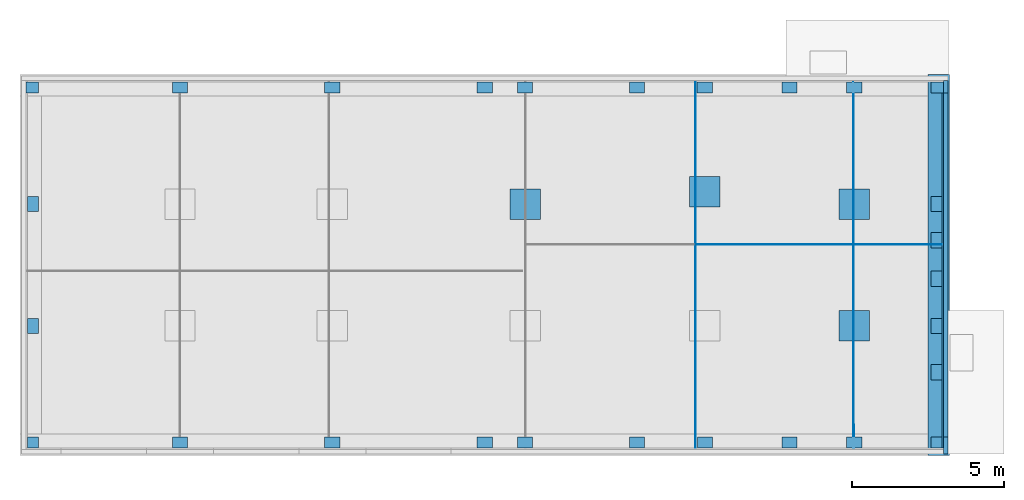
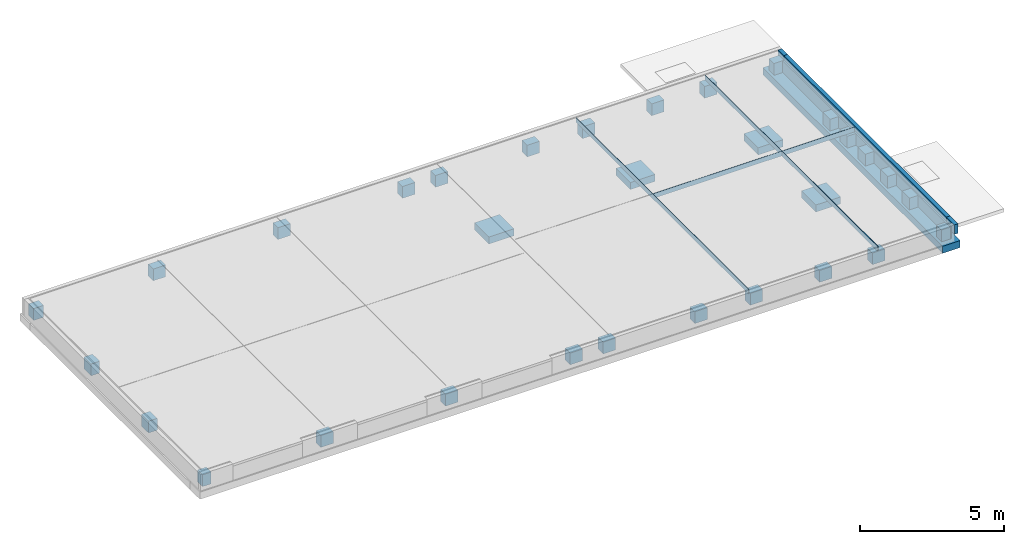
# One storey, part 2 of 3: 39 walls.
"""IFC2X3 building model written with IfcOpenShell, lengths in millimetres."""

from ifc_helpers import new_model, entity, si_unit, converted_unit, frame, frame_2d, origin, origin_with_axes, place, context, subcontext, project, spatial, polyline, rectangle, outline, extrude, clip, bounded_halfspace, material, layer, layer_set, layer_usage, element, save


model = new_model("IFC2X3")

# Units and contexts
model_context = context("Model", 3, precision=1e-05, world=origin())
plan_context = context("Plan", 3, precision=1e-05, world=origin())
body_context = subcontext(model_context, "Body", "Model", "MODEL_VIEW")
ifc_project = project(units=[si_unit("LENGTHUNIT", "METRE", prefix="MILLI"), converted_unit("PLANEANGLEUNIT", "DEGREE", entity("IfcPlaneAngleMeasure", 0.0174532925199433), si_unit("PLANEANGLEUNIT", "RADIAN"), dimensions=[0, 0, 0, 0, 0, 0, 0]), si_unit("AREAUNIT", "SQUARE_METRE"), si_unit("VOLUMEUNIT", "CUBIC_METRE")], contexts=[model_context, plan_context])

# Building, storey
building_placement = place(None, origin())
building = spatial("IfcBuilding", under=ifc_project, at=building_placement, Name="HEKF Administrasjonbygg", CompositionType="ELEMENT")
storey_placement = place(building_placement, frame((0.0, 0.0, 6300.0), z_axis=(0.0, 0.0, 1.0), x_axis=(1.0, 0.0, 0.0)))
storey = spatial("IfcBuildingStorey", under=building, at=storey_placement, Name="Konstruksjoner i grunnen", CompositionType="ELEMENT", Elevation=6300.0)

# Walls
ifc_material_1 = material(Name="Rissanviser")
ifc_layer_1 = layer(ifc_material_1, 33.08250141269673)
ifc_layer_set_1 = layer_set([ifc_layer_1])
ifc_layer_usage_1 = layer_usage(ifc_layer_set_1, "AXIS2", "POSITIVE", -7.5)
wall_1_placement = place(storey_placement, frame((27085.85138322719, 0.0, 0.0), z_axis=(0.0, 0.0, 1.0), x_axis=(0.0, -1.0, 0.0)))
element("IfcWallStandardCase", 1, at=wall_1_placement, inside=storey, material=ifc_layer_usage_1, context=body_context, shape_type="SweptSolid", body=[
    extrude(outline(polyline([(0.0, 0.0), (5308.999999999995, 8.0), (5332.0, 7.984855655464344), (9550.0, 0.0), (12000.0, 0.0), (12000.0, 33.08250141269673), (0.0, 15.0), (0.0, 0.0)])), origin_with_axes(), (0.0, 0.0, 1.0), 200.0),
])
ifc_material_2 = material(Name="Rissanviser")
ifc_layer_2 = layer(ifc_material_2, 14.9999984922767)
ifc_layer_set_2 = layer_set([ifc_layer_2])
ifc_layer_usage_2 = layer_usage(ifc_layer_set_2, "AXIS2", "POSITIVE", -7.5)
wall_2_placement = place(storey_placement, frame((21909.92637380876, -5308.999999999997, 0.0), z_axis=(0.0, 0.0, 1.0), x_axis=(0.0004483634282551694, -0.9999998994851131, 0.0)))
element("IfcWallStandardCase", 2, at=wall_2_placement, inside=storey, material=ifc_layer_usage_2, context=body_context, shape_type="SweptSolid", body=[
    extrude(outline(polyline([(22.99999930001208, -0.006717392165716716), (6691.00067254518, 4.440892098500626e-16), (6691.007397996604, 14.9999984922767), (15.00672394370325, 14.99327304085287), (0.00672545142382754, 14.9999984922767), (-5308.991395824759, 20.38035963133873), (-5308.998121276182, 5.380361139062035), (0.0, 0.0), (22.99999930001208, -0.006717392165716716)])), origin_with_axes(), (0.0, 0.0, 1.0), 200.0),
])
ifc_material_3 = material(Name="Rissanviser")
ifc_layer_3 = layer(ifc_material_3, 15.00000000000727)
ifc_layer_set_3 = layer_set([ifc_layer_3])
ifc_layer_usage_3 = layer_usage(ifc_layer_set_3, "AXIS2", "POSITIVE", -7.5)
wall_3_placement = place(storey_placement, frame((16413.0, -5332.0, 0.0), z_axis=(0.0, 0.0, 1.0), x_axis=(0.9999999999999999, 0.0, 0.0)))
element("IfcWallStandardCase", 3, at=wall_3_placement, inside=storey, material=ifc_layer_usage_3, context=body_context, shape_type="SweptSolid", body=[
    extrude(outline(polyline([(10680.84611562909, 15.00000000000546), (5511.92637380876, 15.00000000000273), (5511.929968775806, 0.0), (10680.83623888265, 0.0), (10680.84611562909, 15.00000000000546)])), origin_with_axes(), (0.0, 0.0, 1.0), 200.0),
])
ifc_material_4 = material(Name="Rissanviser")
ifc_layer_4 = layer(ifc_material_4, 15.00000000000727)
ifc_layer_set_4 = layer_set([ifc_layer_4])
ifc_layer_usage_4 = layer_usage(ifc_layer_set_4, "AXIS2", "POSITIVE", -7.5)
wall_4_placement = place(storey_placement, frame((16413.0, -5332.0, 0.0), z_axis=(0.0, 0.0, 1.0), x_axis=(0.9999999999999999, 0.0, 0.0)))
element("IfcWallStandardCase", 4, at=wall_4_placement, inside=storey, material=ifc_layer_usage_4, context=body_context, shape_type="SweptSolid", body=[
    extrude(outline(polyline([(10695.88604135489, 0.0), (13587.0, 0.0), (13587.0, 15.00000000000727), (10695.86343822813, 15.00000000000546), (10695.88604135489, 0.0)])), origin_with_axes(), (0.0, 0.0, 1.0), 200.0),
])
ifc_material_5 = material(Name="Betong")
ifc_layer_5 = layer(ifc_material_5, 700.0)
ifc_layer_set_5 = layer_set([ifc_layer_5])
ifc_layer_usage_5 = layer_usage(ifc_layer_set_5, "AXIS2", "POSITIVE", -350.0000000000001)
wall_5_placement = place(storey_placement, frame((29549.99999999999, 250.0, -800.0), z_axis=(0.0, 0.0, 1.0), x_axis=(0.0, -1.0, 0.0)))
element("IfcWallStandardCase", 5, at=wall_5_placement, inside=storey, material=ifc_layer_usage_5, context=body_context, shape_type="SweptSolid", body=[
    extrude(rectangle(XDim=12500.0, YDim=700.0, at=frame_2d((6250.0, 350.0), x_axis=(1.0, 0.0))), origin_with_axes(), (0.0, 0.0, 1.0), 300.0),
])
ifc_material_6 = material(Name="Betong")
ifc_layer_6 = layer(ifc_material_6, 1000.0)
ifc_layer_set_6 = layer_set([ifc_layer_6])
ifc_layer_usage_6 = layer_usage(ifc_layer_set_6, "AXIS2", "POSITIVE", 0.0)
wall_6_placement = place(storey_placement, frame((15825.0, -3500.0, -300.0), z_axis=(0.0, 0.0, 1.0), x_axis=(0.0, -1.0, 0.0)))
element("IfcWallStandardCase", 6, at=wall_6_placement, inside=storey, material=ifc_layer_usage_6, context=body_context, shape_type="SweptSolid", body=[
    extrude(rectangle(XDim=1000.0, YDim=1000.0, at=frame_2d((500.0, 500.0), x_axis=(1.0, 0.0))), origin_with_axes(), (0.0, 0.0, 1.0), 300.0),
])
ifc_material_7 = material(Name="Betong")
ifc_layer_7 = layer(ifc_material_7, 1000.0)
ifc_layer_set_7 = layer_set([ifc_layer_7])
ifc_layer_usage_7 = layer_usage(ifc_layer_set_7, "AXIS2", "POSITIVE", 0.0)
wall_7_placement = place(storey_placement, frame((21725.26840322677, -3098.999999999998, -300.0), z_axis=(0.0, 0.0, 1.0), x_axis=(0.0, -1.0, 0.0)))
element("IfcWallStandardCase", 7, at=wall_7_placement, inside=storey, material=ifc_layer_usage_7, context=body_context, shape_type="SweptSolid", body=[
    extrude(rectangle(XDim=1000.0, YDim=1000.0, at=frame_2d((500.0, 500.0), x_axis=(1.0, 0.0))), origin_with_axes(), (0.0, 0.0, 1.0), 300.0),
])
ifc_material_8 = material(Name="Betong")
ifc_layer_8 = layer(ifc_material_8, 1000.0)
ifc_layer_set_8 = layer_set([ifc_layer_8])
ifc_layer_usage_8 = layer_usage(ifc_layer_set_8, "AXIS2", "POSITIVE", 0.0)
wall_8_placement = place(storey_placement, frame((26625.53680645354, -7499.999999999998, -300.0), z_axis=(0.0, 0.0, 1.0), x_axis=(0.0, -1.0, 0.0)))
element("IfcWallStandardCase", 8, at=wall_8_placement, inside=storey, material=ifc_layer_usage_8, context=body_context, shape_type="SweptSolid", body=[
    extrude(rectangle(XDim=1000.0, YDim=1000.0, at=frame_2d((500.0, 500.0), x_axis=(1.0, 0.0))), origin_with_axes(), (0.0, 0.0, 1.0), 300.0),
])
ifc_material_9 = material(Name="Betong")
ifc_layer_9 = layer(ifc_material_9, 1000.0)
ifc_layer_set_9 = layer_set([ifc_layer_9])
ifc_layer_usage_9 = layer_usage(ifc_layer_set_9, "AXIS2", "POSITIVE", 0.0)
wall_9_placement = place(storey_placement, frame((26625.53680645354, -3499.999999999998, -300.0), z_axis=(0.0, 0.0, 1.0), x_axis=(0.0, -1.0, 0.0)))
element("IfcWallStandardCase", 9, at=wall_9_placement, inside=storey, material=ifc_layer_usage_9, context=body_context, shape_type="SweptSolid", body=[
    extrude(rectangle(XDim=1000.0, YDim=1000.0, at=frame_2d((500.0, 500.0), x_axis=(1.0, 0.0))), origin_with_axes(), (0.0, 0.0, 1.0), 300.0),
])
ifc_material_10 = material(Name="Betong")
ifc_layer_10 = layer(ifc_material_10, 150.0)
ifc_layer_set_10 = layer_set([ifc_layer_10])
ifc_layer_usage_10 = layer_usage(ifc_layer_set_10, "AXIS2", "POSITIVE", 0.0)
wall_10_placement = place(storey_placement, frame((30199.99999999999, -12200.0, -200.0), z_axis=(0.0, 0.0, 1.0), x_axis=(0.0, 1.0, 0.0)))
element("IfcWallStandardCase", 10, at=wall_10_placement, inside=storey, material=ifc_layer_usage_10, context=body_context, shape_type="SweptSolid", body=[
    extrude(outline(polyline([(0.0, 0.0), (549.9999999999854, 0.0), (549.9999999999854, 150.0), (0.0, 150.0), (0.0, 0.0)])), origin_with_axes(), (0.0, 0.0, 1.0), 400.0),
])
ifc_material_11 = material(Name="Betong")
ifc_layer_11 = layer(ifc_material_11, 150.0)
ifc_layer_set_11 = layer_set([ifc_layer_11])
ifc_layer_usage_11 = layer_usage(ifc_layer_set_11, "AXIS2", "POSITIVE", 0.0)
wall_11_placement = place(storey_placement, frame((30199.99999999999, -12200.0, -200.0), z_axis=(0.0, 0.0, 1.0), x_axis=(0.0, 1.0, 0.0)))
element("IfcWallStandardCase", 11, at=wall_11_placement, inside=storey, material=ifc_layer_usage_11, context=body_context, shape_type="SweptSolid", body=[
    extrude(outline(polyline([(12250.0, 150.0), (11849.99999999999, 150.0), (11849.99999999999, 0.0), (12250.0, 0.0), (12250.0, 150.0)])), origin_with_axes(), (0.0, 0.0, 1.0), 400.0),
])
ifc_material_12 = material(Name="Betong")
ifc_layer_12 = layer(ifc_material_12, 50.0)
ifc_material_13 = material(Name="Betong")
ifc_layer_13 = layer(ifc_material_13, 150.0)
ifc_layer_set_12 = layer_set([ifc_layer_12, ifc_layer_13])
ifc_layer_usage_12 = layer_usage(ifc_layer_set_12, "AXIS2", "POSITIVE", 0.0)
wall_12_placement = place(storey_placement, frame((30000.0, -350.0000000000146, -500.0), z_axis=(0.0, 0.0, 1.0), x_axis=(0.0, -1.0, 0.0)))
element("IfcWallStandardCase", 12, at=wall_12_placement, inside=storey, material=ifc_layer_usage_12, context=body_context, shape_type="Clipping", body=[
    clip(clip(extrude(outline(polyline([(0.0, 0.0), (11650.0, 0.0), (11650.0, 50.0), (11300.0, 50.0), (11300.0, 200.0), (-5.684341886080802e-14, 200.0), (0.0, 0.0)])), origin_with_axes(), (0.0, 0.0, 1.0), 700.0), bounded_halfspace(frame((0.0, 0.0, 500.0), z_axis=(0.0, 0.0, -1.0), x_axis=(1.0, 0.0, 0.0)), True, origin(), polyline([(0.0, 0.0), (11650.0, 0.0), (11650.0, 50.0), (11300.0, 50.0), (0.0, 50.0), (0.0, 0.0)]))), bounded_halfspace(frame((-5.684341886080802e-14, 50.0, 700.0), z_axis=(0.0, 0.0, -1.0), x_axis=(1.0, 0.0, 0.0)), True, origin(), polyline([(-5.684341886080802e-14, 50.0), (11300.0, 50.0), (11300.0, 200.0), (-5.684341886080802e-14, 200.0), (-5.684341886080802e-14, 50.0)]))),
])
ifc_material_14 = material(Name="Betong")
ifc_layer_14 = layer(ifc_material_14, 350.0)
ifc_layer_set_13 = layer_set([ifc_layer_14])
ifc_layer_usage_13 = layer_usage(ifc_layer_set_13, "AXIS2", "POSITIVE", 0.0)
wall_13_placement = place(storey_placement, frame((25250.0, -11650.00000000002, -500.0), z_axis=(0.0, 0.0, 1.0), x_axis=(-1.0, 0.0, 0.0)))
element("IfcWallStandardCase", 13, at=wall_13_placement, inside=storey, material=ifc_layer_usage_13, context=body_context, shape_type="SweptSolid", body=[
    extrude(rectangle(XDim=500.0, YDim=350.0, at=frame_2d((250.0, 175.0), x_axis=(1.0, 0.0))), origin_with_axes(), (0.0, 0.0, 1.0), 500.0),
])
ifc_material_15 = material(Name="Betong")
ifc_layer_15 = layer(ifc_material_15, 350.0)
ifc_layer_set_14 = layer_set([ifc_layer_15])
ifc_layer_usage_14 = layer_usage(ifc_layer_set_14, "AXIS2", "POSITIVE", 0.0)
wall_14_placement = place(storey_placement, frame((5250.000000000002, -11650.00000000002, -500.0), z_axis=(0.0, 0.0, 1.0), x_axis=(-1.0, 0.0, 0.0)))
element("IfcWallStandardCase", 14, at=wall_14_placement, inside=storey, material=ifc_layer_usage_14, context=body_context, shape_type="SweptSolid", body=[
    extrude(rectangle(XDim=500.0, YDim=350.0, at=frame_2d((250.0, 175.0), x_axis=(1.0, 0.0))), origin_with_axes(), (0.0, 0.0, 1.0), 500.0),
])
ifc_material_16 = material(Name="Betong")
ifc_layer_16 = layer(ifc_material_16, 350.0)
ifc_layer_set_15 = layer_set([ifc_layer_16])
ifc_layer_usage_15 = layer_usage(ifc_layer_set_15, "AXIS2", "POSITIVE", 0.0)
wall_15_placement = place(storey_placement, frame((15250.0, -11650.00000000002, -500.0), z_axis=(0.0, 0.0, 1.0), x_axis=(-1.0, 0.0, 0.0)))
element("IfcWallStandardCase", 15, at=wall_15_placement, inside=storey, material=ifc_layer_usage_15, context=body_context, shape_type="SweptSolid", body=[
    extrude(rectangle(XDim=500.0, YDim=350.0, at=frame_2d((250.0, 175.0), x_axis=(1.0, 0.0))), origin_with_axes(), (0.0, 0.0, 1.0), 500.0),
])
ifc_material_17 = material(Name="Betong")
ifc_layer_17 = layer(ifc_material_17, 350.0)
ifc_layer_set_16 = layer_set([ifc_layer_17])
ifc_layer_usage_16 = layer_usage(ifc_layer_set_16, "AXIS2", "POSITIVE", 0.0)
wall_16_placement = place(storey_placement, frame((20250.0, -11650.00000000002, -500.0), z_axis=(0.0, 0.0, 1.0), x_axis=(-1.0, 0.0, 0.0)))
element("IfcWallStandardCase", 16, at=wall_16_placement, inside=storey, material=ifc_layer_usage_16, context=body_context, shape_type="SweptSolid", body=[
    extrude(rectangle(XDim=500.0, YDim=350.0, at=frame_2d((250.0, 175.0), x_axis=(1.0, 0.0))), origin_with_axes(), (0.0, 0.0, 1.0), 500.0),
])
ifc_material_18 = material(Name="Betong")
ifc_layer_18 = layer(ifc_material_18, 350.0)
ifc_layer_set_17 = layer_set([ifc_layer_18])
ifc_layer_usage_17 = layer_usage(ifc_layer_set_17, "AXIS2", "POSITIVE", 0.0)
wall_17_placement = place(storey_placement, frame((10250.0, -11650.00000000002, -500.0), z_axis=(0.0, 0.0, 1.0), x_axis=(-1.0, 0.0, 0.0)))
element("IfcWallStandardCase", 17, at=wall_17_placement, inside=storey, material=ifc_layer_usage_17, context=body_context, shape_type="SweptSolid", body=[
    extrude(rectangle(XDim=500.0, YDim=350.0, at=frame_2d((250.0, 175.0), x_axis=(1.0, 0.0))), origin_with_axes(), (0.0, 0.0, 1.0), 500.0),
])
ifc_material_19 = material(Name="Betong")
ifc_layer_19 = layer(ifc_material_19, 350.0000000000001)
ifc_layer_set_18 = layer_set([ifc_layer_19])
ifc_layer_usage_18 = layer_usage(ifc_layer_set_18, "AXIS2", "POSITIVE", 0.0)
wall_18_placement = place(storey_placement, frame((5250.000000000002, -1.443822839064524e-11, -500.0), z_axis=(0.0, 0.0, 1.0), x_axis=(-1.0, 0.0, 0.0)))
element("IfcWallStandardCase", 18, at=wall_18_placement, inside=storey, material=ifc_layer_usage_18, context=body_context, shape_type="SweptSolid", body=[
    extrude(rectangle(XDim=500.0, YDim=350.0000000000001, at=frame_2d((250.0, 175.0000000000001), x_axis=(1.0, 0.0))), origin_with_axes(), (0.0, 0.0, 1.0), 500.0),
])
ifc_material_20 = material(Name="Betong")
ifc_layer_20 = layer(ifc_material_20, 350.0000000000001)
ifc_layer_set_19 = layer_set([ifc_layer_20])
ifc_layer_usage_19 = layer_usage(ifc_layer_set_19, "AXIS2", "POSITIVE", 0.0)
wall_19_placement = place(storey_placement, frame((10250.0, -1.431921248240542e-11, -500.0), z_axis=(0.0, 0.0, 1.0), x_axis=(-1.0, 0.0, 0.0)))
element("IfcWallStandardCase", 19, at=wall_19_placement, inside=storey, material=ifc_layer_usage_19, context=body_context, shape_type="SweptSolid", body=[
    extrude(rectangle(XDim=500.0, YDim=350.0000000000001, at=frame_2d((250.0, 175.0000000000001), x_axis=(1.0, 0.0))), origin_with_axes(), (0.0, 0.0, 1.0), 500.0),
])
ifc_material_21 = material(Name="Betong")
ifc_layer_21 = layer(ifc_material_21, 350.0000000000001)
ifc_layer_set_20 = layer_set([ifc_layer_21])
ifc_layer_usage_20 = layer_usage(ifc_layer_set_20, "AXIS2", "POSITIVE", 0.0)
wall_20_placement = place(storey_placement, frame((15250.0, -1.41966438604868e-11, -500.0), z_axis=(0.0, 0.0, 1.0), x_axis=(-1.0, 0.0, 0.0)))
element("IfcWallStandardCase", 20, at=wall_20_placement, inside=storey, material=ifc_layer_usage_20, context=body_context, shape_type="SweptSolid", body=[
    extrude(rectangle(XDim=500.0, YDim=350.0000000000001, at=frame_2d((250.0, 175.0000000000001), x_axis=(1.0, 0.0))), origin_with_axes(), (0.0, 0.0, 1.0), 500.0),
])
ifc_material_22 = material(Name="Betong")
ifc_layer_22 = layer(ifc_material_22, 350.0000000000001)
ifc_layer_set_21 = layer_set([ifc_layer_22])
ifc_layer_usage_21 = layer_usage(ifc_layer_set_21, "AXIS2", "POSITIVE", 0.0)
wall_21_placement = place(storey_placement, frame((20250.0, -1.409716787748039e-11, -500.0), z_axis=(0.0, 0.0, 1.0), x_axis=(-1.0, 0.0, 0.0)))
element("IfcWallStandardCase", 21, at=wall_21_placement, inside=storey, material=ifc_layer_usage_21, context=body_context, shape_type="SweptSolid", body=[
    extrude(rectangle(XDim=500.0, YDim=350.0000000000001, at=frame_2d((250.0, 175.0000000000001), x_axis=(1.0, 0.0))), origin_with_axes(), (0.0, 0.0, 1.0), 500.0),
])
ifc_material_23 = material(Name="Betong")
ifc_layer_23 = layer(ifc_material_23, 350.0000000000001)
ifc_layer_set_22 = layer_set([ifc_layer_23])
ifc_layer_usage_22 = layer_usage(ifc_layer_set_22, "AXIS2", "POSITIVE", 0.0)
wall_22_placement = place(storey_placement, frame((25250.0, -1.409716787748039e-11, -500.0), z_axis=(0.0, 0.0, 1.0), x_axis=(-1.0, 0.0, 0.0)))
element("IfcWallStandardCase", 22, at=wall_22_placement, inside=storey, material=ifc_layer_usage_22, context=body_context, shape_type="SweptSolid", body=[
    extrude(rectangle(XDim=500.0, YDim=350.0000000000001, at=frame_2d((250.0, 175.0000000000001), x_axis=(1.0, 0.0))), origin_with_axes(), (0.0, 0.0, 1.0), 500.0),
])
ifc_material_24 = material(Name="Betong")
ifc_layer_24 = layer(ifc_material_24, 350.0000000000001)
ifc_layer_set_23 = layer_set([ifc_layer_24])
ifc_layer_usage_23 = layer_usage(ifc_layer_set_23, "AXIS2", "POSITIVE", 0.0)
wall_23_placement = place(storey_placement, frame((1.364242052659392e-12, -7750.0, -500.0), z_axis=(0.0, 0.0, 1.0), x_axis=(0.0, -1.0, 0.0)))
element("IfcWallStandardCase", 23, at=wall_23_placement, inside=storey, material=ifc_layer_usage_23, context=body_context, shape_type="SweptSolid", body=[
    extrude(rectangle(XDim=500.0, YDim=350.0000000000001, at=frame_2d((250.0, 175.0000000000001), x_axis=(1.0, 0.0))), origin_with_axes(), (0.0, 0.0, 1.0), 500.0),
])
ifc_material_25 = material(Name="Betong")
ifc_layer_25 = layer(ifc_material_25, 350.0000000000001)
ifc_layer_set_24 = layer_set([ifc_layer_25])
ifc_layer_usage_24 = layer_usage(ifc_layer_set_24, "AXIS2", "POSITIVE", 0.0)
wall_24_placement = place(storey_placement, frame((1.818989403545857e-12, -3750.0, -500.0), z_axis=(0.0, 0.0, 1.0), x_axis=(0.0, -1.0, 0.0)))
element("IfcWallStandardCase", 24, at=wall_24_placement, inside=storey, material=ifc_layer_usage_24, context=body_context, shape_type="SweptSolid", body=[
    extrude(rectangle(XDim=500.0, YDim=350.0000000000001, at=frame_2d((250.0, 175.0000000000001), x_axis=(1.0, 0.0))), origin_with_axes(), (0.0, 0.0, 1.0), 500.0),
])
ifc_material_26 = material(Name="Betong")
ifc_layer_26 = layer(ifc_material_26, 350.0)
ifc_layer_set_25 = layer_set([ifc_layer_26])
ifc_layer_usage_25 = layer_usage(ifc_layer_set_25, "AXIS2", "POSITIVE", 0.0)
wall_25_placement = place(storey_placement, frame((30000.0, -4250.0, -500.0), z_axis=(0.0, 0.0, 1.0), x_axis=(0.0, 1.0, 0.0)))
element("IfcWallStandardCase", 25, at=wall_25_placement, inside=storey, material=ifc_layer_usage_25, context=body_context, shape_type="SweptSolid", body=[
    extrude(rectangle(XDim=500.0, YDim=350.0, at=frame_2d((250.0, 175.0), x_axis=(1.0, 0.0))), origin_with_axes(), (0.0, 0.0, 1.0), 500.0),
])
ifc_material_27 = material(Name="Betong")
ifc_layer_27 = layer(ifc_material_27, 350.0)
ifc_layer_set_26 = layer_set([ifc_layer_27])
ifc_layer_usage_26 = layer_usage(ifc_layer_set_26, "AXIS2", "POSITIVE", 0.0)
wall_26_placement = place(storey_placement, frame((30000.0, -8250.0, -500.0), z_axis=(0.0, 0.0, 1.0), x_axis=(0.0, 1.0, 0.0)))
element("IfcWallStandardCase", 26, at=wall_26_placement, inside=storey, material=ifc_layer_usage_26, context=body_context, shape_type="SweptSolid", body=[
    extrude(rectangle(XDim=500.0, YDim=350.0, at=frame_2d((250.0, 175.0), x_axis=(1.0, 0.0))), origin_with_axes(), (0.0, 0.0, 1.0), 500.0),
])
ifc_material_28 = material(Name="Betong")
ifc_layer_28 = layer(ifc_material_28, 350.0)
ifc_layer_set_27 = layer_set([ifc_layer_28])
ifc_layer_usage_27 = layer_usage(ifc_layer_set_27, "AXIS2", "POSITIVE", 0.0)
wall_27_placement = place(storey_placement, frame((16575.0, -11650.00000000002, -500.0), z_axis=(0.0, 0.0, 1.0), x_axis=(-1.0, 0.0, 0.0)))
element("IfcWallStandardCase", 27, at=wall_27_placement, inside=storey, material=ifc_layer_usage_27, context=body_context, shape_type="SweptSolid", body=[
    extrude(rectangle(XDim=500.0, YDim=350.0, at=frame_2d((250.0, 175.0), x_axis=(1.0, 0.0))), origin_with_axes(), (0.0, 0.0, 1.0), 500.0),
])
ifc_material_29 = material(Name="Betong")
ifc_layer_29 = layer(ifc_material_29, 350.0)
ifc_layer_set_28 = layer_set([ifc_layer_29])
ifc_layer_usage_28 = layer_usage(ifc_layer_set_28, "AXIS2", "POSITIVE", 0.0)
wall_28_placement = place(storey_placement, frame((22475.26840322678, -11650.00000000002, -500.0), z_axis=(0.0, 0.0, 1.0), x_axis=(-1.0, 0.0, 0.0)))
element("IfcWallStandardCase", 28, at=wall_28_placement, inside=storey, material=ifc_layer_usage_28, context=body_context, shape_type="SweptSolid", body=[
    extrude(rectangle(XDim=500.0, YDim=350.0, at=frame_2d((250.0, 175.0), x_axis=(1.0, 0.0))), origin_with_axes(), (0.0, 0.0, 1.0), 500.0),
])
ifc_material_30 = material(Name="Betong")
ifc_layer_30 = layer(ifc_material_30, 350.0000000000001)
ifc_layer_set_29 = layer_set([ifc_layer_30])
ifc_layer_usage_29 = layer_usage(ifc_layer_set_29, "AXIS2", "POSITIVE", 0.0)
wall_29_placement = place(storey_placement, frame((22473.51021939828, -1.409716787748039e-11, -500.0), z_axis=(0.0, 0.0, 1.0), x_axis=(-1.0, 0.0, 0.0)))
element("IfcWallStandardCase", 29, at=wall_29_placement, inside=storey, material=ifc_layer_usage_29, context=body_context, shape_type="SweptSolid", body=[
    extrude(rectangle(XDim=500.0, YDim=350.0000000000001, at=frame_2d((250.0, 175.0000000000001), x_axis=(1.0, 0.0))), origin_with_axes(), (0.0, 0.0, 1.0), 500.0),
])
ifc_material_31 = material(Name="Betong")
ifc_layer_31 = layer(ifc_material_31, 350.0000000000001)
ifc_layer_set_30 = layer_set([ifc_layer_31])
ifc_layer_usage_30 = layer_usage(ifc_layer_set_30, "AXIS2", "POSITIVE", 0.0)
wall_30_placement = place(storey_placement, frame((27373.77862262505, -1.409716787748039e-11, -500.0), z_axis=(0.0, 0.0, 1.0), x_axis=(-1.0, 0.0, 0.0)))
element("IfcWallStandardCase", 30, at=wall_30_placement, inside=storey, material=ifc_layer_usage_30, context=body_context, shape_type="SweptSolid", body=[
    extrude(rectangle(XDim=500.0, YDim=350.0000000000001, at=frame_2d((250.0, 175.0000000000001), x_axis=(1.0, 0.0))), origin_with_axes(), (0.0, 0.0, 1.0), 500.0),
])
ifc_material_32 = material(Name="Betong")
ifc_layer_32 = layer(ifc_material_32, 350.0000000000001)
ifc_layer_set_31 = layer_set([ifc_layer_32])
ifc_layer_usage_31 = layer_usage(ifc_layer_set_31, "AXIS2", "POSITIVE", 0.0)
wall_31_placement = place(storey_placement, frame((16575.0, -1.41966438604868e-11, -500.0), z_axis=(0.0, 0.0, 1.0), x_axis=(-1.0, 0.0, 0.0)))
element("IfcWallStandardCase", 31, at=wall_31_placement, inside=storey, material=ifc_layer_usage_31, context=body_context, shape_type="SweptSolid", body=[
    extrude(rectangle(XDim=500.0, YDim=350.0000000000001, at=frame_2d((250.0, 175.0000000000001), x_axis=(1.0, 0.0))), origin_with_axes(), (0.0, 0.0, 1.0), 500.0),
])
ifc_material_33 = material(Name="Betong")
ifc_layer_33 = layer(ifc_material_33, 350.0)
ifc_layer_set_32 = layer_set([ifc_layer_33])
ifc_layer_usage_32 = layer_usage(ifc_layer_set_32, "AXIS2", "POSITIVE", 0.0)
wall_32_placement = place(storey_placement, frame((27375.53680645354, -11650.00000000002, -500.0), z_axis=(0.0, 0.0, 1.0), x_axis=(-1.0, 0.0, 0.0)))
element("IfcWallStandardCase", 32, at=wall_32_placement, inside=storey, material=ifc_layer_usage_32, context=body_context, shape_type="SweptSolid", body=[
    extrude(rectangle(XDim=500.0, YDim=350.0, at=frame_2d((250.0, 175.0), x_axis=(1.0, 0.0))), origin_with_axes(), (0.0, 0.0, 1.0), 500.0),
])
ifc_material_34 = material(Name="Betong")
ifc_layer_34 = layer(ifc_material_34, 350.0)
ifc_layer_set_33 = layer_set([ifc_layer_34])
ifc_layer_usage_33 = layer_usage(ifc_layer_set_33, "AXIS2", "POSITIVE", 0.0)
wall_33_placement = place(storey_placement, frame((30000.0, -5441.053432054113, -500.0), z_axis=(0.0, 0.0, 1.0), x_axis=(0.0, 1.0, 0.0)))
element("IfcWallStandardCase", 33, at=wall_33_placement, inside=storey, material=ifc_layer_usage_33, context=body_context, shape_type="SweptSolid", body=[
    extrude(rectangle(XDim=500.0, YDim=350.0, at=frame_2d((250.0, 175.0), x_axis=(1.0, 0.0))), origin_with_axes(), (0.0, 0.0, 1.0), 500.0),
])
ifc_material_35 = material(Name="Betong")
ifc_layer_35 = layer(ifc_material_35, 350.0)
ifc_layer_set_34 = layer_set([ifc_layer_35])
ifc_layer_usage_34 = layer_usage(ifc_layer_set_34, "AXIS2", "POSITIVE", 0.0)
wall_34_placement = place(storey_placement, frame((30000.0, -6701.053432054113, -500.0), z_axis=(0.0, 0.0, 1.0), x_axis=(0.0, 1.0, 0.0)))
element("IfcWallStandardCase", 34, at=wall_34_placement, inside=storey, material=ifc_layer_usage_34, context=body_context, shape_type="SweptSolid", body=[
    extrude(rectangle(XDim=500.0, YDim=350.0, at=frame_2d((250.0, 175.0), x_axis=(1.0, 0.0))), origin_with_axes(), (0.0, 0.0, 1.0), 500.0),
])
ifc_material_36 = material(Name="Betong")
ifc_layer_36 = layer(ifc_material_36, 350.0)
ifc_layer_set_35 = layer_set([ifc_layer_36])
ifc_layer_usage_35 = layer_usage(ifc_layer_set_35, "AXIS2", "POSITIVE", 0.0)
wall_35_placement = place(storey_placement, frame((30000.0, -9766.624074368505, -500.0), z_axis=(0.0, 0.0, 1.0), x_axis=(0.0, 1.0, 0.0)))
element("IfcWallStandardCase", 35, at=wall_35_placement, inside=storey, material=ifc_layer_usage_35, context=body_context, shape_type="SweptSolid", body=[
    extrude(rectangle(XDim=500.0, YDim=350.0, at=frame_2d((250.0, 175.0), x_axis=(1.0, 0.0))), origin_with_axes(), (0.0, 0.0, 1.0), 500.0),
])
ifc_material_37 = material(Name="Betong")
ifc_layer_37 = layer(ifc_material_37, 350.0000000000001)
ifc_layer_set_36 = layer_set([ifc_layer_37])
ifc_layer_usage_36 = layer_usage(ifc_layer_set_36, "AXIS2", "POSITIVE", 0.0)
wall_36_placement = place(storey_placement, frame((350.0000000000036, 0.0, -500.0), z_axis=(0.0, 0.0, 1.0), x_axis=(-1.0, 0.0, 0.0)))
element("IfcWallStandardCase", 36, at=wall_36_placement, inside=storey, material=ifc_layer_usage_36, context=body_context, shape_type="SweptSolid", body=[
    extrude(rectangle(XDim=400.0, YDim=350.0000000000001, at=frame_2d((200.0, 175.0), x_axis=(1.0, 0.0))), origin_with_axes(), (0.0, 0.0, 1.0), 500.0),
])
ifc_material_38 = material(Name="Betong")
ifc_layer_38 = layer(ifc_material_38, 350.0)
ifc_layer_set_37 = layer_set([ifc_layer_38])
ifc_layer_usage_37 = layer_usage(ifc_layer_set_37, "AXIS2", "POSITIVE", 0.0)
wall_37_placement = place(storey_placement, frame((350.0000000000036, -11650.0, -500.0), z_axis=(0.0, 0.0, 1.0), x_axis=(-1.0, 0.0, 0.0)))
element("IfcWallStandardCase", 37, at=wall_37_placement, inside=storey, material=ifc_layer_usage_37, context=body_context, shape_type="SweptSolid", body=[
    extrude(rectangle(XDim=350.0000000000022, YDim=350.0, at=frame_2d((175.0000000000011, 175.0), x_axis=(1.0, 0.0))), origin_with_axes(), (0.0, 0.0, 1.0), 500.0),
])
ifc_material_39 = material(Name="Betong")
ifc_layer_39 = layer(ifc_material_39, 350.0)
ifc_layer_set_38 = layer_set([ifc_layer_39])
ifc_layer_usage_38 = layer_usage(ifc_layer_set_38, "AXIS2", "POSITIVE", 0.0)
wall_38_placement = place(storey_placement, frame((30000.0, -11650.00000000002, -500.0), z_axis=(0.0, 0.0, 1.0), x_axis=(-1.0, 0.0, 0.0)))
element("IfcWallStandardCase", 38, at=wall_38_placement, inside=storey, material=ifc_layer_usage_38, context=body_context, shape_type="SweptSolid", body=[
    extrude(rectangle(XDim=350.0, YDim=350.0, at=frame_2d((175.0, 175.0), x_axis=(1.0, 0.0))), origin_with_axes(), (0.0, 0.0, 1.0), 500.0),
])
ifc_material_40 = material(Name="Betong")
ifc_layer_40 = layer(ifc_material_40, 350.0000000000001)
ifc_layer_set_39 = layer_set([ifc_layer_40])
ifc_layer_usage_39 = layer_usage(ifc_layer_set_39, "AXIS2", "POSITIVE", 0.0)
wall_39_placement = place(storey_placement, frame((30050.0, -1.455191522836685e-11, -500.0), z_axis=(0.0, 0.0, 1.0), x_axis=(-1.0, -2.842170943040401e-16, 0.0)))
element("IfcWallStandardCase", 39, at=wall_39_placement, inside=storey, material=ifc_layer_usage_39, context=body_context, shape_type="SweptSolid", body=[
    extrude(rectangle(XDim=400.0, YDim=350.0000000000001, at=frame_2d((200.0, 175.0), x_axis=(1.0, 0.0))), origin_with_axes(), (0.0, 0.0, 1.0), 500.0),
])

save(model, "model.ifc")
